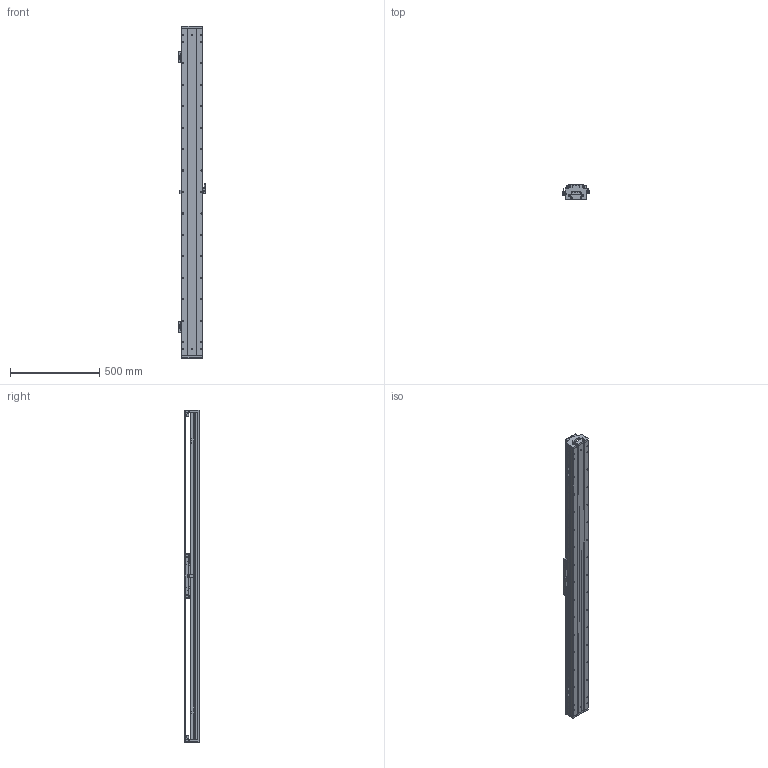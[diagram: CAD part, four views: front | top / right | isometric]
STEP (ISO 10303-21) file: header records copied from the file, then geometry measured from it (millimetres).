
FILE_DESCRIPTION (( 'STEP AP203' ), '1' );
FILE_NAME ('DKW120-B3-W060（T1500-L005-0.2）.STEP', '2021-09-07T00:49:25', ( '微软用户' ), ( '微软中国' ), 'SwSTEP 2.0', 'SolidWorks 2018', '' );
FILE_SCHEMA (( 'CONFIG_CONTROL_DESIGN' ));
Length unit declared in the file: millimetre
Products named in the file (20): RUS嫖掑郪璃; 10940-0001-004-00 120詩湍裔啣; DKW119-RU-DTJ-00 RU2黍杅芛盓殤; 砎蝶猾沭; 10980-0001-003-00 嫖萇羲壽嘐隅釱; 12160-0000-003-00 DKW120詩湍嶺輸; DKW-SG-GYP-H-00 嫖萇覜茼え; 12160-0000-004-00  DKW120詩湍揤輸; DKW120-B15-T300-DZ-00 菁釱; EE_SX674A; DKW120 单轴模组-拉钢带组件; MSB15-DG-U; B3-W060_00; BKMA01-W060-TRL280; 06652-0001-001-00 DKW120傷啣; DKW120-B3-W060（T1500-L005-0.2）; RUS嫖掑喜; 06652-0001-004-00 DKW120嶺輸菜輸; Ru2; DKW-HXJ-JY-00 遣喳砎蝶
Assembly tree (33 placements, depth 3):
  DKW120-B3-W060（T1500-L005-0.2）
    DKW120-B15-T300-DZ-00 菁釱
    MSB15-DG-U  x2
    DKW120 单轴模组-拉钢带组件
      06652-0001-001-00 DKW120傷啣  x2
      06652-0001-004-00 DKW120嶺輸菜輸  x4
      DKW-HXJ-JY-00 遣喳砎蝶  x4
      10940-0001-004-00 120詩湍裔啣
      砎蝶猾沭  x2
      12160-0000-003-00 DKW120詩湍嶺輸  x2
      12160-0000-004-00  DKW120詩湍揤輸  x2
    BKMA01-W060-TRL280
    RUS嫖掑郪璃
      RUS嫖掑喜
      Ru2
    DKW119-RU-DTJ-00 RU2黍杅芛盓殤
    10980-0001-003-00 嫖萇羲壽嘐隅釱  x2
    DKW-SG-GYP-H-00 嫖萇覜茼え
    EE_SX674A  x3
    B3-W060_00
Bounding box: 154.1 x 84 x 1856 mm (x, y, z)
Volume: 6658735.4 mm3; surface area: 2594246.8 mm2
Topology: 41 solids, 90 shells, 4288 faces, 11808 edges, 7605 vertices
Faces by surface type: plane 2267, cylinder 1426, cone 348, bspline 247
Entity records: 138206 total; most frequent: CARTESIAN_POINT 48029, ORIENTED_EDGE 18741, DIRECTION 17398, EDGE_CURVE 9411, VERTEX_POINT 6184, AXIS2_PLACEMENT_3D 5830, VECTOR 5738, LINE 5738
